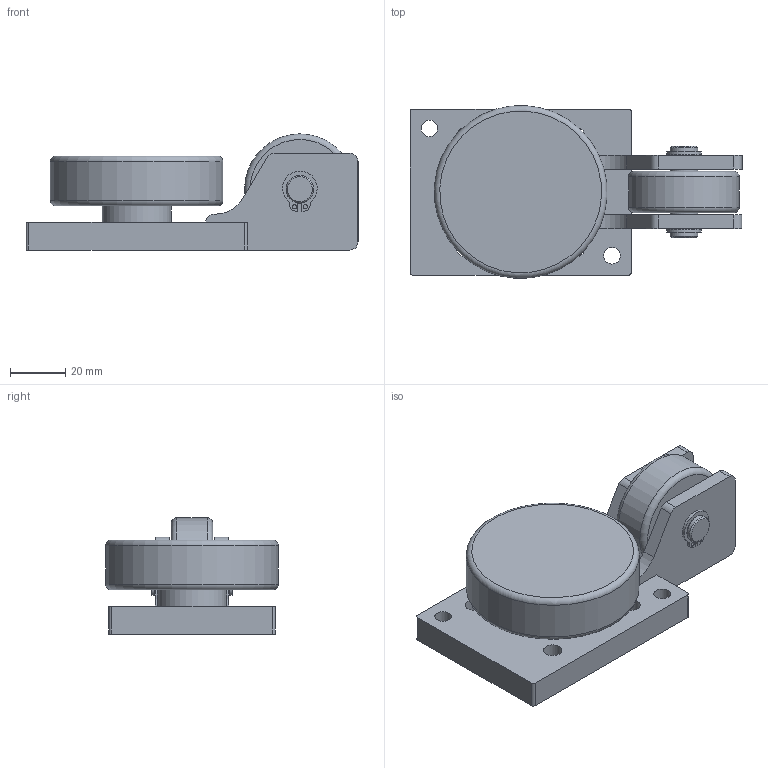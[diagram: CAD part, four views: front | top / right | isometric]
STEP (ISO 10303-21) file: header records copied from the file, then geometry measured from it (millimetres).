
FILE_DESCRIPTION(/* description */ ('-','CAx-IF Rec.Pracs.---Representation and Presentation of Product Manufacturing Information (PMI)---4.0---2014-10-13'),/* implementation_level */ '2;1');
FILE_NAME(/* name */ 'c:\temp\07bdf162-ad91-4fc2-8ecc-771627443d15\f2ab604f-958d-4e1e-a590-fd645e770291.stp',/* time_stamp */ '2020-04-01T16:23:23+02:00',/* author */ ('-'),/* organization */ ('NTI CADcenter A/S'),/* preprocessor_version */ 'ST-DEVELOPER v18',/* originating_system */ 'Autodesk Inventor 2020',/* authorisation */ '-');
FILE_SCHEMA (('AP242_MANAGED_MODEL_BASED_3D_ENGINEERING_MIM_LF { 1 0 10303 442 1 1 4 }'));
Length unit declared in the file: millimetre
Products named in the file (1): SAS 060.6200_Kontur
Bounding box: 120 x 62.39 x 42 mm (x, y, z)
Volume: 134305.7 mm3; surface area: 34464.9 mm2
Topology: 1 solids, 1 shells, 122 faces, 354 edges, 246 vertices
Faces by surface type: plane 55, cylinder 52, cone 8, torus 7
Full cylindrical faces by diameter (mm): 1.5 x4, 2 x2, 6 x2, 6.647 x4, 9.6 x2, 10 x6, 22 x1, 25 x1, 26 x2, 27.2 x1, 40 x1, 62.5 x1
Entity records: 4260 total; most frequent: DIRECTION 789, CARTESIAN_POINT 723, ORIENTED_EDGE 708, EDGE_CURVE 354, AXIS2_PLACEMENT_3D 312, VERTEX_POINT 246, CIRCLE 189, LINE 165
